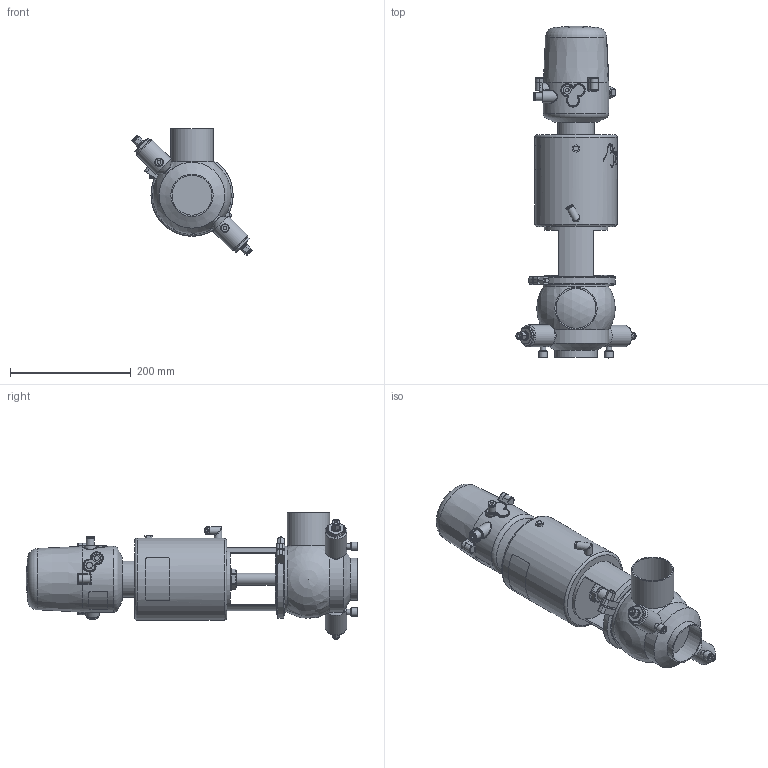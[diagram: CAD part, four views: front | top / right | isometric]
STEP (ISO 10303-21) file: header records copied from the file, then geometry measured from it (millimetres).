
FILE_DESCRIPTION (( 'STEP AP214' ), '1' );
FILE_NAME ('INNOVA D L W DIN 065 T3 AS NC & C-TOP S_10.246.16.0003.STEP', '2024-08-08T09:42:04', ( '' ), ( '' ), 'SwSTEP 2.0', 'SolidWorks 2023', '' );
FILE_SCHEMA (( 'AUTOMOTIVE_DESIGN' ));
Length unit declared in the file: millimetre
Products named in the file (7): 10.246.15.0001_DIN 065; 10.240.15.0001_DN 065; 10.240.15.0017_Estàndard; 10.240.15.0010_DN 065; 10.426.15.0001_C-TOP S - 1 EV; INNOVA D L W DIN 065 T3 AS NC & C-TOP S_10.246.16.0003; 10.240.15.0014_T3 AS P0
Assembly tree (6 placements, depth 2):
  INNOVA D L W DIN 065 T3 AS NC & C-TOP S_10.246.16.0003
    10.246.15.0001_DIN 065
    10.240.15.0010_DN 065
    10.240.15.0014_T3 AS P0
    10.240.15.0017_Estàndard
    10.426.15.0001_C-TOP S - 1 EV
    10.240.15.0001_DN 065
Bounding box: 198.84 x 549.5 x 209.42 mm (x, y, z)
Volume: 5226174.4 mm3; surface area: 386861.9 mm2
Topology: 6 solids, 6 shells, 1196 faces, 2843 edges, 1886 vertices
Faces by surface type: plane 442, cylinder 350, cone 202, bspline 160, torus 36, sphere 6
Full cylindrical faces by diameter (mm): 0.371 x17, 0.512 x16, 0.658 x16, 0.795 x16, 0.94 x15, 1.098 x15, 1.241 x13, 1.382 x13, 1.523 x11, 1.669 x10, 2.201 x1, 4 x2, 5.5 x2, 6 x6, 6.15 x1, 8 x4, 8.5 x1, 9 x2, 10 x3, 10.5 x1, 11 x2, 12 x4, 12.5 x3, 13 x2, 13.5 x2, 14 x4, 15 x2, 16 x1, 17 x3, 20 x3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
Entity records: 60354 total; most frequent: CARTESIAN_POINT 28482, ORIENTED_EDGE 4814, DIRECTION 4001, EDGE_CURVE 2407, VERTEX_POINT 1710, EDGE_LOOP 1693, AXIS2_PLACEMENT_3D 1618, FACE_OUTER_BOUND 1427
